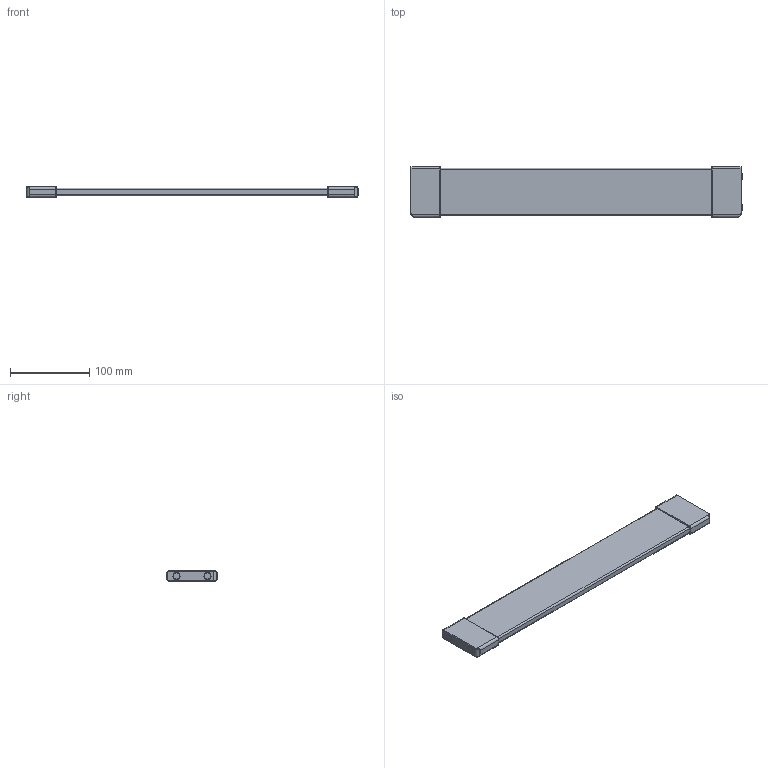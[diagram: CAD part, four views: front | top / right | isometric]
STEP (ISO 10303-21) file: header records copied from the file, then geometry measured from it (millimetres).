
FILE_DESCRIPTION (( 'STEP AP214' ), '1' );
FILE_NAME ('Schubkastenteiler_PROKAB_500.step', '2009-11-04T15:16:42', ( 'Waldinger Reinhard' ), ( 'Grass GmbH' ), 'SwSTEP 2.0', 'SolidWorks 2009', '' );
FILE_SCHEMA (( 'AUTOMOTIVE_DESIGN' ));
Length unit declared in the file: millimetre
Products named in the file (1): Schubkastenteiler_PROKAB_500
Bounding box: 417.9 x 63.7 x 13 mm (x, y, z)
Volume: 260455.3 mm3; surface area: 59475.4 mm2
Topology: 1 solids, 1 shells, 92 faces, 208 edges, 124 vertices
Faces by surface type: cylinder 38, torus 28, plane 22, bspline 4
Entity records: 3210 total; most frequent: CARTESIAN_POINT 1069, DIRECTION 486, ORIENTED_EDGE 416, EDGE_CURVE 208, AXIS2_PLACEMENT_3D 205, VERTEX_POINT 124, CIRCLE 116, EDGE_LOOP 98
